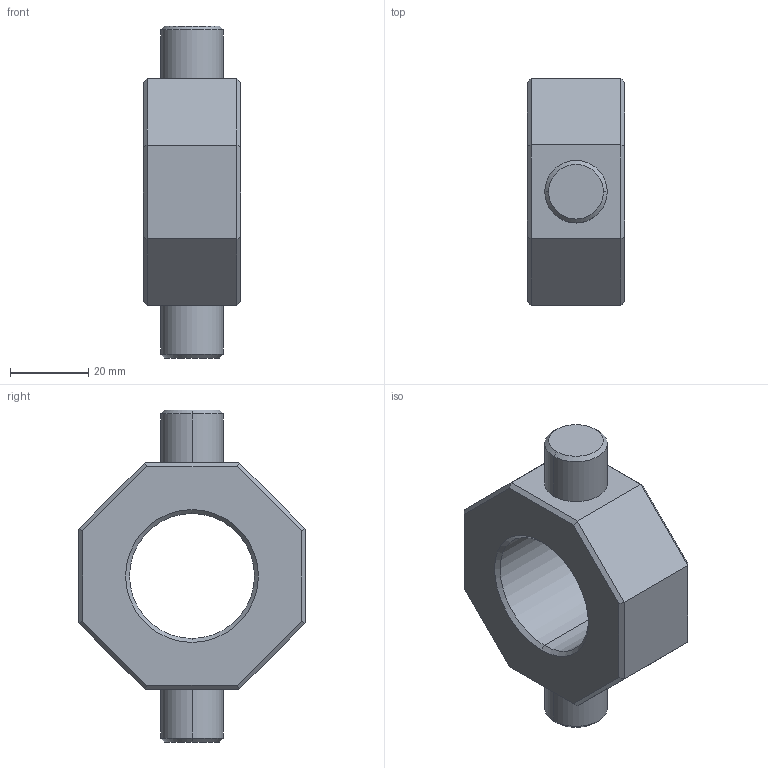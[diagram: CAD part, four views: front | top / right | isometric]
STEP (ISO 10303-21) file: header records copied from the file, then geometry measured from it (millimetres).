
FILE_DESCRIPTION (( 'STEP AP214' ), '1' );
FILE_NAME ('LB-KA-32.STEP', '2025-04-08T06:32:46', ( '' ), ( '' ), 'SwSTEP 2.0', 'SolidWorks 2023', '' );
FILE_SCHEMA (( 'AUTOMOTIVE_DESIGN' ));
Length unit declared in the file: millimetre
Products named in the file (1): LB-KA-32
Bounding box: 25 x 58 x 85 mm (x, y, z)
Volume: 52577.3 mm3; surface area: 13831 mm2
Topology: 1 solids, 1 shells, 78 faces, 174 edges, 94 vertices
Faces by surface type: cone 32, plane 28, cylinder 18
Entity records: 2053 total; most frequent: DIRECTION 376, CARTESIAN_POINT 335, ORIENTED_EDGE 324, EDGE_CURVE 162, AXIS2_PLACEMENT_3D 135, VECTOR 106, LINE 106, VERTEX_POINT 94
